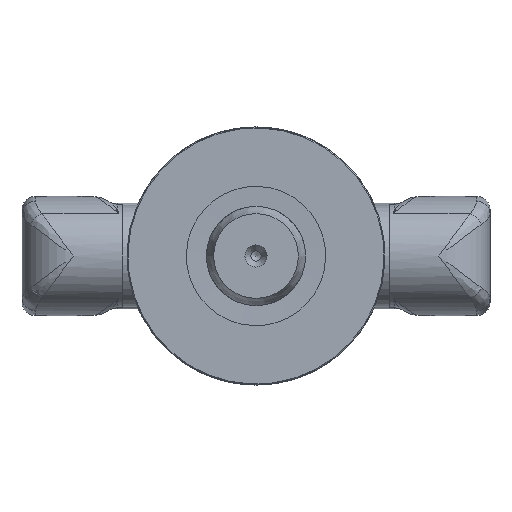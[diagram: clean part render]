
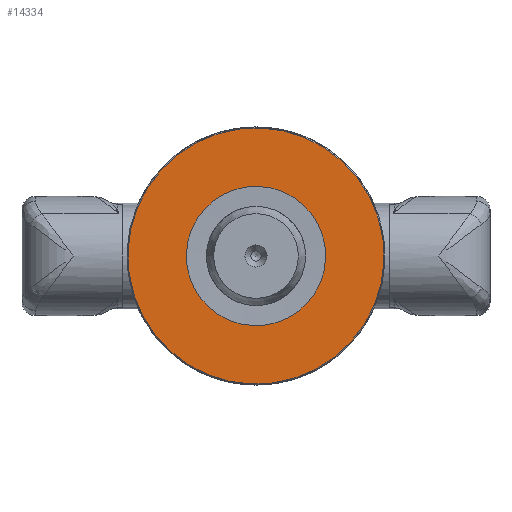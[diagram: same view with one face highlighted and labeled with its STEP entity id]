
A CAD part, front view. The second image highlights one B-rep face of the part: STEP entity #14334.
In plain terms, the highlighted planar face has unit normal (0, -1, 0) as drawn and (0, 0, -1) by its records, which use the part's own axes.
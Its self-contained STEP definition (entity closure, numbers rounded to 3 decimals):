
#556=FACE_BOUND('',#4934,.T.);
#3209=PLANE('',#15381);
#4028=FACE_OUTER_BOUND('',#4933,.T.);
#4933=EDGE_LOOP('',(#13456));
#4934=EDGE_LOOP('',(#13457));
#5321=CIRCLE('',#15378,38.7);
#5323=CIRCLE('',#15382,21.04);
#7172=VERTEX_POINT('',#30082);
#7174=VERTEX_POINT('',#30088);
#9270=EDGE_CURVE('',#7172,#7172,#5321,.T.);
#9272=EDGE_CURVE('',#7174,#7174,#5323,.T.);
#13456=ORIENTED_EDGE('',*,*,#9270,.F.);
#13457=ORIENTED_EDGE('',*,*,#9272,.F.);
#14334=ADVANCED_FACE('',(#4028,#556),#3209,.F.);
#15378=AXIS2_PLACEMENT_3D('',#30083,#18429,#18430);
#15381=AXIS2_PLACEMENT_3D('',#30087,#18435,#18436);
#15382=AXIS2_PLACEMENT_3D('',#30089,#18437,#18438);
#18429=DIRECTION('center_axis',(0.,0.,1.));
#18430=DIRECTION('ref_axis',(-1.,0.,0.));
#18435=DIRECTION('center_axis',(0.,0.,1.));
#18436=DIRECTION('ref_axis',(1.,0.,0.));
#18437=DIRECTION('center_axis',(0.,0.,-1.));
#18438=DIRECTION('ref_axis',(-1.,0.,0.));
#30082=CARTESIAN_POINT('',(38.7,0.,0.));
#30083=CARTESIAN_POINT('Origin',(0.,0.,0.));
#30087=CARTESIAN_POINT('Origin',(0.,0.,
0.));
#30088=CARTESIAN_POINT('',(21.04,0.,0.));
#30089=CARTESIAN_POINT('Origin',(0.,0.,0.));
